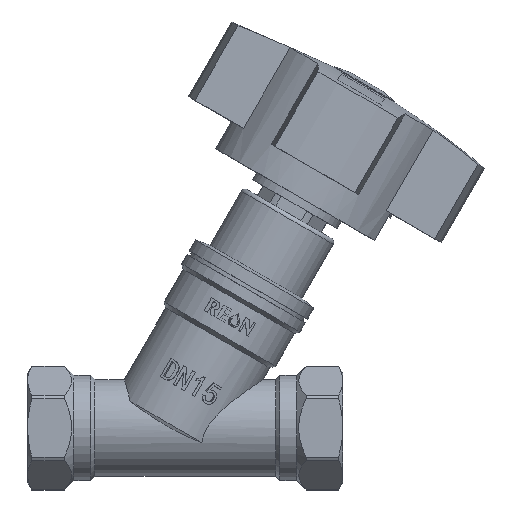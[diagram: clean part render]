
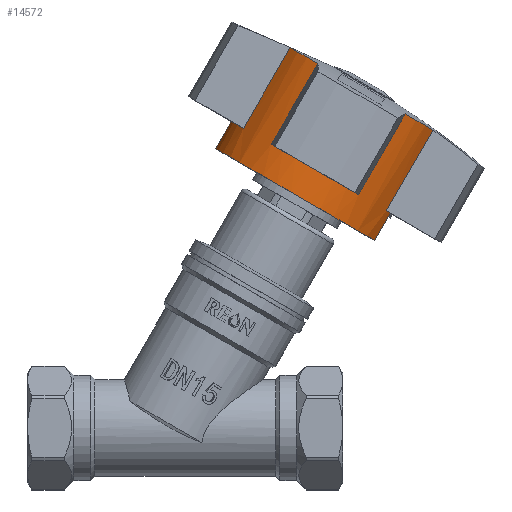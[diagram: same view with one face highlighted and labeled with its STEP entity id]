
A CAD part, top view. The second image highlights one B-rep face of the part: STEP entity #14572.
In plain terms, the highlighted cylindrical face has radius 23 mm (diameter 46 mm), a partial arc.
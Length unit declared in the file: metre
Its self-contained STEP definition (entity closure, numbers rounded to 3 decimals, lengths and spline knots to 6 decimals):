
#1880=LINE('',#48026,#2741);
#1881=LINE('',#48029,#2742);
#1882=LINE('',#48030,#2743);
#1883=LINE('',#48031,#2744);
#1884=LINE('',#48032,#2745);
#1885=LINE('',#48033,#2746);
#1886=LINE('',#48034,#2747);
#1887=LINE('',#48035,#2748);
#1888=LINE('',#48036,#2749);
#1889=LINE('',#48037,#2750);
#2741=VECTOR('',#18966,1.);
#2742=VECTOR('',#18969,1.);
#2743=VECTOR('',#18970,1.);
#2744=VECTOR('',#18971,1.);
#2745=VECTOR('',#18972,1.);
#2746=VECTOR('',#18973,1.);
#2747=VECTOR('',#18974,1.);
#2748=VECTOR('',#18975,1.);
#2749=VECTOR('',#18976,1.);
#2750=VECTOR('',#18977,1.);
#3305=CYLINDRICAL_SURFACE('',#15908,0.023);
#4007=FACE_OUTER_BOUND('',#4936,.T.);
#4936=EDGE_LOOP('',(#12701,#12702,#12703,#12704,#12705,#12706,#12707,#12708,
#12709,#12710,#12711,#12712,#12713,#12714,#12715,#12716,#12717,#12718,#12719,
#12720));
#5621=CIRCLE('',#15779,0.023);
#5625=CIRCLE('',#15783,0.023);
#5629=CIRCLE('',#15787,0.023);
#5633=CIRCLE('',#15791,0.023);
#5711=CIRCLE('',#15890,0.023);
#5714=CIRCLE('',#15894,0.023);
#5717=CIRCLE('',#15898,0.023);
#5718=CIRCLE('',#15899,0.023);
#5722=CIRCLE('',#15905,0.023);
#5725=CIRCLE('',#15909,0.023);
#6863=VERTEX_POINT('',#47678);
#6864=VERTEX_POINT('',#47680);
#6867=VERTEX_POINT('',#47686);
#6868=VERTEX_POINT('',#47688);
#6871=VERTEX_POINT('',#47694);
#6872=VERTEX_POINT('',#47696);
#6875=VERTEX_POINT('',#47702);
#6876=VERTEX_POINT('',#47704);
#6991=VERTEX_POINT('',#47958);
#6992=VERTEX_POINT('',#47960);
#6997=VERTEX_POINT('',#47972);
#6998=VERTEX_POINT('',#47974);
#7003=VERTEX_POINT('',#47986);
#7004=VERTEX_POINT('',#47988);
#7005=VERTEX_POINT('',#47991);
#7006=VERTEX_POINT('',#47993);
#7013=VERTEX_POINT('',#48011);
#7014=VERTEX_POINT('',#48013);
#7019=VERTEX_POINT('',#48025);
#7020=VERTEX_POINT('',#48027);
#8833=EDGE_CURVE('',#6864,#6863,#5621,.T.);
#8837=EDGE_CURVE('',#6868,#6867,#5625,.T.);
#8841=EDGE_CURVE('',#6872,#6871,#5629,.T.);
#8845=EDGE_CURVE('',#6876,#6875,#5633,.T.);
#8964=EDGE_CURVE('',#6992,#6991,#5711,.T.);
#8971=EDGE_CURVE('',#6998,#6997,#5714,.T.);
#8978=EDGE_CURVE('',#7004,#7003,#5717,.T.);
#8981=EDGE_CURVE('',#7006,#7005,#5718,.T.);
#8992=EDGE_CURVE('',#7013,#7014,#5722,.T.);
#8997=EDGE_CURVE('',#7019,#7003,#1880,.T.);
#8998=EDGE_CURVE('',#7020,#7019,#5725,.T.);
#8999=EDGE_CURVE('',#7006,#7020,#1881,.T.);
#9000=EDGE_CURVE('',#6876,#7005,#1882,.T.);
#9001=EDGE_CURVE('',#6875,#6998,#1883,.T.);
#9002=EDGE_CURVE('',#6872,#6997,#1884,.T.);
#9003=EDGE_CURVE('',#6871,#6992,#1885,.T.);
#9004=EDGE_CURVE('',#6868,#6991,#1886,.T.);
#9005=EDGE_CURVE('',#6867,#7013,#1887,.T.);
#9006=EDGE_CURVE('',#6864,#7014,#1888,.T.);
#9007=EDGE_CURVE('',#6863,#7004,#1889,.T.);
#12701=ORIENTED_EDGE('',*,*,#8997,.F.);
#12702=ORIENTED_EDGE('',*,*,#8998,.F.);
#12703=ORIENTED_EDGE('',*,*,#8999,.F.);
#12704=ORIENTED_EDGE('',*,*,#8981,.T.);
#12705=ORIENTED_EDGE('',*,*,#9000,.F.);
#12706=ORIENTED_EDGE('',*,*,#8845,.T.);
#12707=ORIENTED_EDGE('',*,*,#9001,.T.);
#12708=ORIENTED_EDGE('',*,*,#8971,.T.);
#12709=ORIENTED_EDGE('',*,*,#9002,.F.);
#12710=ORIENTED_EDGE('',*,*,#8841,.T.);
#12711=ORIENTED_EDGE('',*,*,#9003,.T.);
#12712=ORIENTED_EDGE('',*,*,#8964,.T.);
#12713=ORIENTED_EDGE('',*,*,#9004,.F.);
#12714=ORIENTED_EDGE('',*,*,#8837,.T.);
#12715=ORIENTED_EDGE('',*,*,#9005,.T.);
#12716=ORIENTED_EDGE('',*,*,#8992,.T.);
#12717=ORIENTED_EDGE('',*,*,#9006,.F.);
#12718=ORIENTED_EDGE('',*,*,#8833,.T.);
#12719=ORIENTED_EDGE('',*,*,#9007,.T.);
#12720=ORIENTED_EDGE('',*,*,#8978,.T.);
#14572=ADVANCED_FACE('',(#4007),#3305,.T.);
#15779=AXIS2_PLACEMENT_3D('',#47681,#18646,#18647);
#15783=AXIS2_PLACEMENT_3D('',#47689,#18654,#18655);
#15787=AXIS2_PLACEMENT_3D('',#47697,#18662,#18663);
#15791=AXIS2_PLACEMENT_3D('',#47705,#18670,#18671);
#15890=AXIS2_PLACEMENT_3D('',#47961,#18909,#18910);
#15894=AXIS2_PLACEMENT_3D('',#47975,#18921,#18922);
#15898=AXIS2_PLACEMENT_3D('',#47989,#18933,#18934);
#15899=AXIS2_PLACEMENT_3D('',#47994,#18937,#18938);
#15905=AXIS2_PLACEMENT_3D('',#48015,#18956,#18957);
#15908=AXIS2_PLACEMENT_3D('',#48024,#18964,#18965);
#15909=AXIS2_PLACEMENT_3D('',#48028,#18967,#18968);
#18646=DIRECTION('center_axis',(-0.5,-0.866,0.));
#18647=DIRECTION('ref_axis',(0.,0.,
-1.));
#18654=DIRECTION('center_axis',(-0.5,-0.866,0.));
#18655=DIRECTION('ref_axis',(0.866,-0.5,0.));
#18662=DIRECTION('center_axis',(-0.5,-0.866,0.));
#18663=DIRECTION('ref_axis',(0.866,-0.5,0.));
#18670=DIRECTION('center_axis',(-0.5,-0.866,0.));
#18671=DIRECTION('ref_axis',(0.,0.,
-1.));
#18909=DIRECTION('center_axis',(-0.5,-0.866,0.));
#18910=DIRECTION('ref_axis',(0.866,-0.5,0.));
#18921=DIRECTION('center_axis',(-0.5,-0.866,0.));
#18922=DIRECTION('ref_axis',(0.866,-0.5,0.));
#18933=DIRECTION('center_axis',(-0.5,-0.866,0.));
#18934=DIRECTION('ref_axis',(0.866,-0.5,0.));
#18937=DIRECTION('center_axis',(-0.5,-0.866,0.));
#18938=DIRECTION('ref_axis',(0.866,-0.5,0.));
#18956=DIRECTION('center_axis',(-0.5,-0.866,0.));
#18957=DIRECTION('ref_axis',(0.866,-0.5,0.));
#18964=DIRECTION('center_axis',(-0.5,-0.866,0.));
#18965=DIRECTION('ref_axis',(-0.866,0.5,0.));
#18966=DIRECTION('',(0.5,0.866,0.));
#18967=DIRECTION('center_axis',(-0.5,-0.866,0.));
#18968=DIRECTION('ref_axis',(0.866,-0.5,0.));
#18969=DIRECTION('',(-0.5,-0.866,0.));
#18970=DIRECTION('',(-0.5,-0.866,0.));
#18971=DIRECTION('',(-0.5,-0.866,0.));
#18972=DIRECTION('',(-0.5,-0.866,0.));
#18973=DIRECTION('',(-0.5,-0.866,0.));
#18974=DIRECTION('',(-0.5,-0.866,0.));
#18975=DIRECTION('',(-0.5,-0.866,0.));
#18976=DIRECTION('',(-0.5,-0.866,0.));
#18977=DIRECTION('',(-0.5,-0.866,0.));
#47678=CARTESIAN_POINT('',(0.058947,0.070872,-0.012));
#47680=CARTESIAN_POINT('',(0.052347,0.074682,-0.019621));
#47681=CARTESIAN_POINT('Origin',(0.041955,0.080682,
0.));
#47686=CARTESIAN_POINT('',(0.031562,0.086682,-0.019621));
#47688=CARTESIAN_POINT('',(0.024962,0.090493,-0.012));
#47689=CARTESIAN_POINT('Origin',(0.041955,0.080682,
0.));
#47694=CARTESIAN_POINT('',(0.024962,0.090493,0.012));
#47696=CARTESIAN_POINT('',(0.031562,0.086682,0.019621));
#47697=CARTESIAN_POINT('Origin',(0.041955,0.080682,
0.));
#47702=CARTESIAN_POINT('',(0.052347,0.074682,0.019621));
#47704=CARTESIAN_POINT('',(0.058947,0.070872,0.012));
#47705=CARTESIAN_POINT('Origin',(0.041955,0.080682,
0.));
#47958=CARTESIAN_POINT('',(0.013866,0.071275,-0.012));
#47960=CARTESIAN_POINT('',(0.013866,0.071275,0.012));
#47961=CARTESIAN_POINT('Origin',(0.030859,0.061464,
0.));
#47972=CARTESIAN_POINT('',(0.020467,0.067464,0.019621));
#47974=CARTESIAN_POINT('',(0.041251,0.055464,0.019621));
#47975=CARTESIAN_POINT('Origin',(0.030859,0.061464,
0.));
#47986=CARTESIAN_POINT('',(0.048796,0.051108,-0.01));
#47988=CARTESIAN_POINT('',(0.047852,0.051653,-0.012));
#47989=CARTESIAN_POINT('Origin',(0.030859,0.061464,
0.));
#47991=CARTESIAN_POINT('',(0.047852,0.051653,0.012));
#47993=CARTESIAN_POINT('',(0.048796,0.051108,0.01));
#47994=CARTESIAN_POINT('Origin',(0.030859,0.061464,
0.));
#48011=CARTESIAN_POINT('',(0.020467,0.067464,-0.019621));
#48013=CARTESIAN_POINT('',(0.041251,0.055464,-0.019621));
#48015=CARTESIAN_POINT('Origin',(0.030859,0.061464,
0.));
#48024=CARTESIAN_POINT('Origin',(0.026109,0.053237,0.));
#48025=CARTESIAN_POINT('',(0.045046,0.044613,-0.01));
#48026=CARTESIAN_POINT('',(0.044046,0.042881,-0.01));
#48027=CARTESIAN_POINT('',(0.045046,0.044613,0.01));
#48028=CARTESIAN_POINT('Origin',(0.027109,0.054969,
0.));
#48029=CARTESIAN_POINT('',(0.044046,0.042881,0.01));
#48030=CARTESIAN_POINT('',(0.059602,0.072005,0.012));
#48031=CARTESIAN_POINT('',(0.053001,0.075816,0.019621));
#48032=CARTESIAN_POINT('',(0.032217,0.087816,0.019621));
#48033=CARTESIAN_POINT('',(0.025616,0.091626,0.012));
#48034=CARTESIAN_POINT('',(0.025616,0.091626,-0.012));
#48035=CARTESIAN_POINT('',(0.032217,0.087816,-0.019621));
#48036=CARTESIAN_POINT('',(0.053001,0.075816,-0.019621));
#48037=CARTESIAN_POINT('',(0.059602,0.072005,-0.012));
